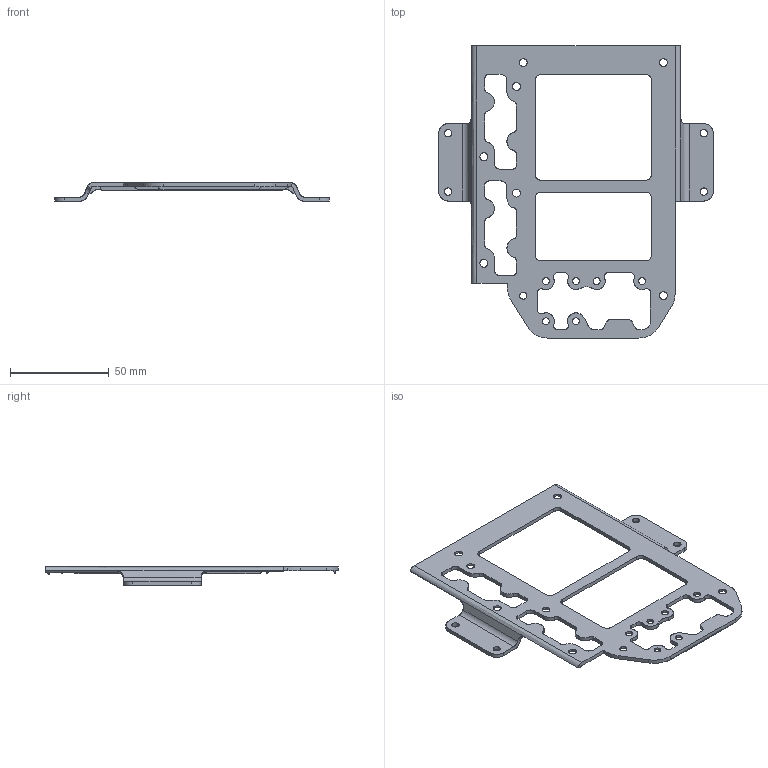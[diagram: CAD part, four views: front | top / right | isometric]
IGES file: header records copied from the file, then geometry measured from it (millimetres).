
Start section: Speaker 2 inch..SLDPRT - PrototypeComponentType Speaker 2 inch..SLDPRT - PrototypeComponentType Speaker 2 inch..SLDPRT - PrototypeComponentType Speaker 2 inch..SLDPRT - PrototypeComponentType 10 rocker-switch-KCD1..SLDPRT - PrototypeComponentType 10 rocker-switch-KCD1..SLDPRT - PrototypeComponentType 10 rocker-switch-KCD1..SLDPRT - PrototypeComponentType 10 rocker-switch-KCD1..SLDPRT - PrototypeCo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
Global section: file name: C:\Users\Victor\Desktop\Placas.igs; native system: Rhinoceros ( Feb 27 2019 ); preprocessor: Trout Lake IGES 012 Feb 27 2019; date: 240310.231255; units: millimetre
Bounding box: 139.03 x 147.97 x 9.38 mm (x, y, z)
Surface area: 22101.9 mm2 (no closed solid volume)
Topology: 0 solids, 0 shells, 332 faces, 3146 edges, 3146 vertices
Faces by surface type: bspline 332
